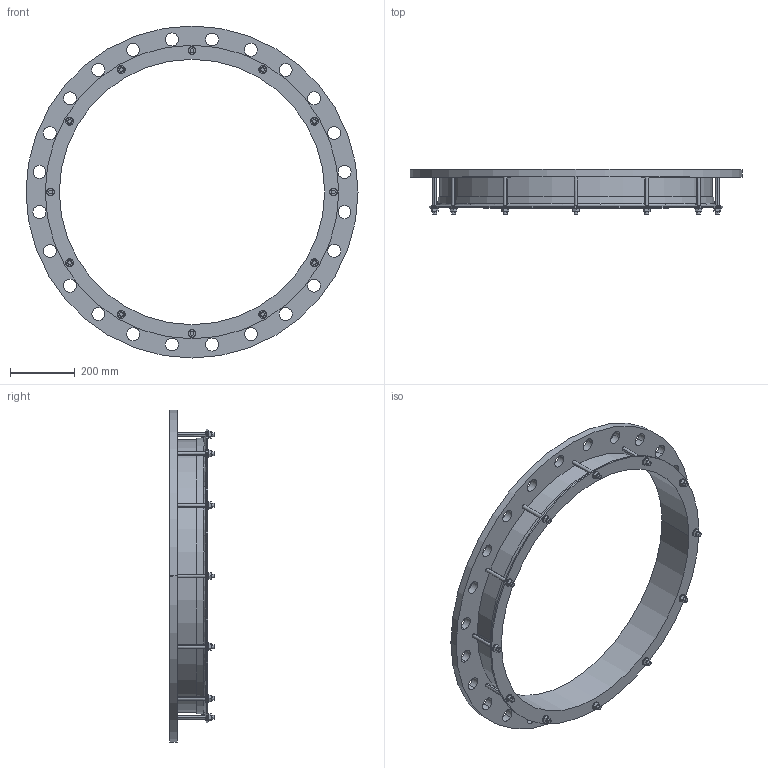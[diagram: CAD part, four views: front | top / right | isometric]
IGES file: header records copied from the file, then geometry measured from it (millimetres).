
Start section:  PTC IGES file: 816x800pn16.igs
Global section: file name: 816x800pn16.igs; native system: Creo Parametric by PTC Inc.; preprocessor: 2016130; author: mfairey; organization: Unknown; date: 20190116.145148; units: millimetre
Bounding box: 1025 x 137.45 x 1025 mm (x, y, z)
Surface area: 1445246.3 mm2 (no closed solid volume)
Topology: 0 solids, 0 shells, 246 faces, 1300 edges, 1300 vertices
Faces by surface type: revolution 134, bspline 112
